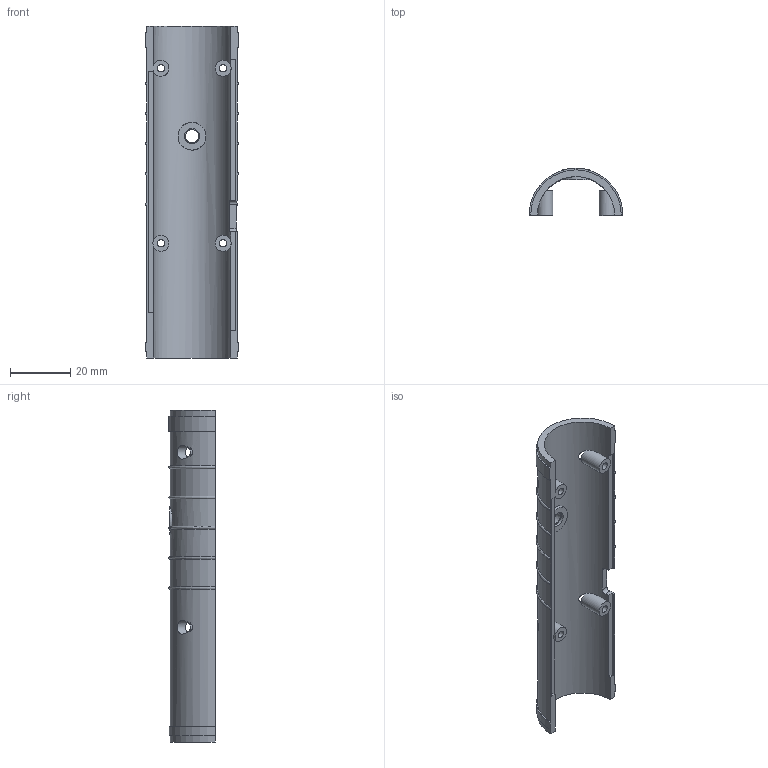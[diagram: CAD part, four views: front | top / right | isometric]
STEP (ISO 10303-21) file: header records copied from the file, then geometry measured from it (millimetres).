
FILE_DESCRIPTION(('Open CASCADE Model'),'2;1');
FILE_NAME('MW-P-001A_UPPER_PRINTED_SHELL','2026-08-22T00:00:00',( 'Author'),('Open CASCADE'),'Open CASCADE STEP processor 7.8', 'build123d','Unknown');
FILE_SCHEMA(('AUTOMOTIVE_DESIGN { 1 0 10303 214 1 1 1 1 }'));
Length unit declared in the file: millimetre
Products named in the file (1): MW-P-001A_UPPER_PRINTED_SHELL
Bounding box: 31.1 x 15.55 x 110 mm (x, y, z)
Volume: 10878.9 mm3; surface area: 11158.3 mm2
Topology: 1 solids, 1 shells, 82 faces, 241 edges, 161 vertices
Faces by surface type: plane 39, cylinder 36, torus 7
Full cylindrical faces by diameter (mm): 2.4 x4, 4.4 x1, 4.5 x4, 5.1 x1, 5.3 x3, 9.2 x2
Entity records: 12677 total; most frequent: CARTESIAN_POINT 8253, DIRECTION 707, ORIENTED_EDGE 482, PCURVE 482, DEFINITIONAL_REPRESENTATION 482, LINE 305, VECTOR 305, B_SPLINE_CURVE_WITH_KNOTS 254
